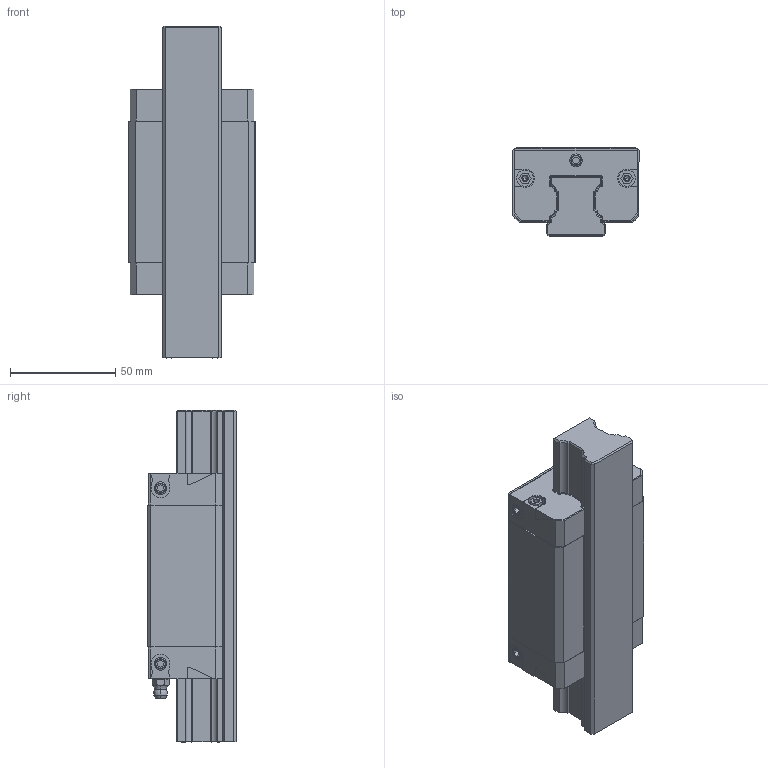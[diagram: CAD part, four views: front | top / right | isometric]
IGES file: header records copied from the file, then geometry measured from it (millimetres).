
Start section: 3D InterOp IGES (v. 2019 1.0.2), Spatial Corp. Copyright (c) 1999-2017.
Global section: file name: R2011_size30.igs; native system: Spatial Corp.; preprocessor: 3D InterOp GENERIC/IGES 3.0; author: Noname; organization: Noname; date: 20220629.154346; units: millimetre
Bounding box: 60 x 42 x 157.7 mm (x, y, z)
Surface area: 63152.2 mm2 (no closed solid volume)
Topology: 0 solids, 0 shells, 525 faces, 2772 edges, 2742 vertices
Faces by surface type: extrusion 292, revolution 233
